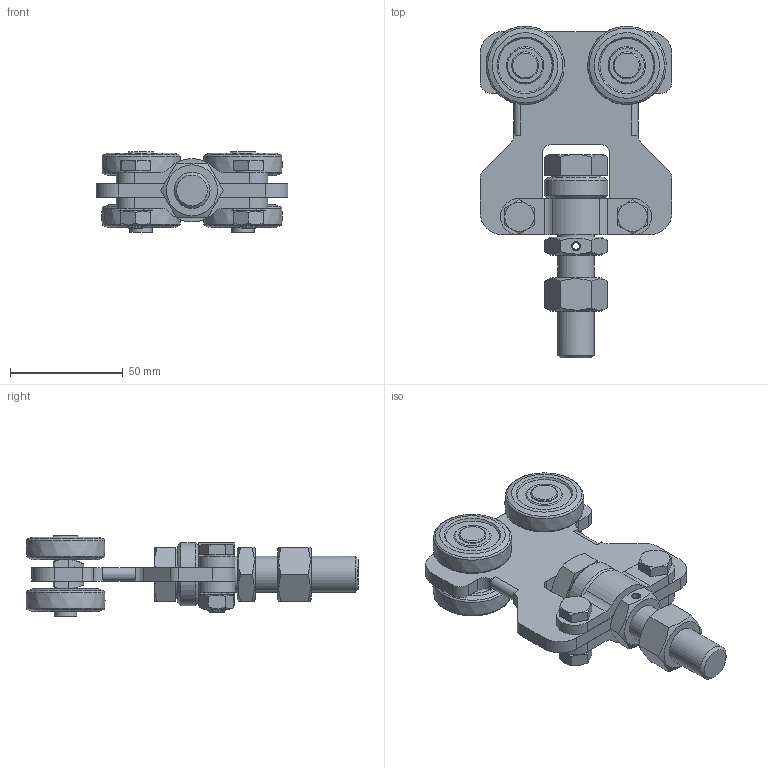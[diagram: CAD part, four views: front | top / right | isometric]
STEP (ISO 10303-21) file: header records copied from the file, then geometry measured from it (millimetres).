
FILE_DESCRIPTION(/* description */ ('Brennteil'),/* implementation_level */ '2;1');
FILE_NAME(/* name */ 'Q:\sge-ma\Produktmanagement-STB\STB\Workspace\stp\010336932.stp',/* time_stamp */ '2016-07-14T07:36:18+02:00',/* author */ ('avschreier'),/* organization */ (''),/* preprocessor_version */ 'ST-DEVELOPER v16.1',/* originating_system */ 'Autodesk Inventor 2016',/* authorisation */ '');
FILE_SCHEMA (('AUTOMOTIVE_DESIGN { 1 0 10303 214 3 1 1 }'));
Length unit declared in the file: millimetre
Products named in the file (14): 000302059; 000303236; 000302004; 000304013; 000302006; 336290020; DIN_EN_ISO_4032-M16_en; DIN_EN_ISO_4032-M8_en; DIN_EN_ISO_4017-M16x80_en; DIN_EN_ISO_4017-M8x25_en; DIN_6798-A_8,4_en; DIN_EN_ISO_4035-M16_en; ISO 13337-4x24_en; 010336932
Assembly tree (24 placements, depth 2):
  010336932
    000302059
    000303236  x4
    000302004
    000304013  x2
    000302006  x2
    336290020  x4
    DIN_EN_ISO_4032-M16_en
    DIN_EN_ISO_4032-M8_en  x2
    DIN_EN_ISO_4017-M16x80_en
    DIN_EN_ISO_4017-M8x25_en  x2
    DIN_6798-A_8,4_en  x2
    DIN_EN_ISO_4035-M16_en
    ISO 13337-4x24_en
Bounding box: 85 x 147 x 35.5 mm (x, y, z)
Volume: 116933.8 mm3; surface area: 53143.4 mm2
Topology: 24 solids, 24 shells, 636 faces, 1608 edges, 1043 vertices
Faces by surface type: plane 310, cylinder 200, cone 80, bspline 36, torus 10
Full cylindrical faces by diameter (mm): 4 x3, 6.647 x2, 7.323 x2, 8 x2, 8.4 x2, 8.7 x6, 10 x6, 11.4 x2, 12 x2, 13.835 x2, 14.917 x1, 16 x1, 16.5 x1, 22 x1, 28 x1
Entity records: 11068 total; most frequent: CARTESIAN_POINT 3051, DIRECTION 1674, ORIENTED_EDGE 1526, EDGE_CURVE 761, AXIS2_PLACEMENT_3D 641, VERTEX_POINT 526, EDGE_LOOP 417, LINE 392
